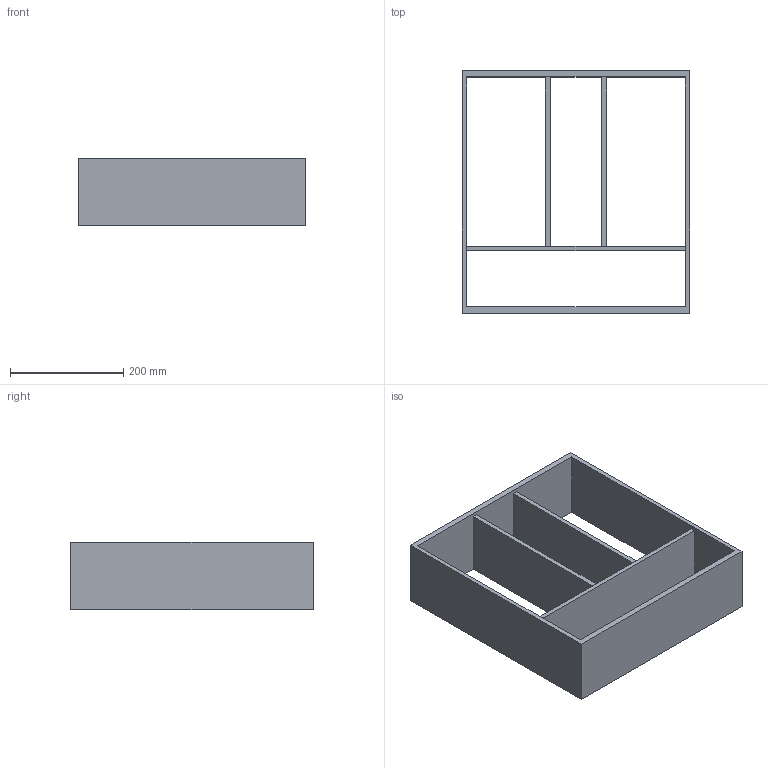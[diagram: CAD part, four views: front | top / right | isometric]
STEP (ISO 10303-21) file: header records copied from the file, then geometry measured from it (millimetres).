
FILE_DESCRIPTION (( 'STEP AP214' ), '1' );
FILE_NAME ('Vario Multi H120 NL450_B500_19 mm_Alu-Buche.step', '2010-10-08T09:47:26', ( 'grass' ), ( '' ), 'SwSTEP 2.0', 'SolidWorks 2010', '' );
FILE_SCHEMA (( 'AUTOMOTIVE_DESIGN' ));
Length unit declared in the file: millimetre
Products named in the file (1): Vario Multi H120 NL450_B500_19 mm_Alu-Buche
Bounding box: 402 x 429 x 120 mm (x, y, z)
Volume: 2741364.4 mm3; surface area: 655432.2 mm2
Topology: 1 solids, 1 shells, 22 faces, 60 edges, 40 vertices
Faces by surface type: plane 22
Entity records: 734 total; most frequent: CARTESIAN_POINT 123, ORIENTED_EDGE 120, DIRECTION 106, EDGE_CURVE 60, VECTOR 60, LINE 60, VERTEX_POINT 40, EDGE_LOOP 30
